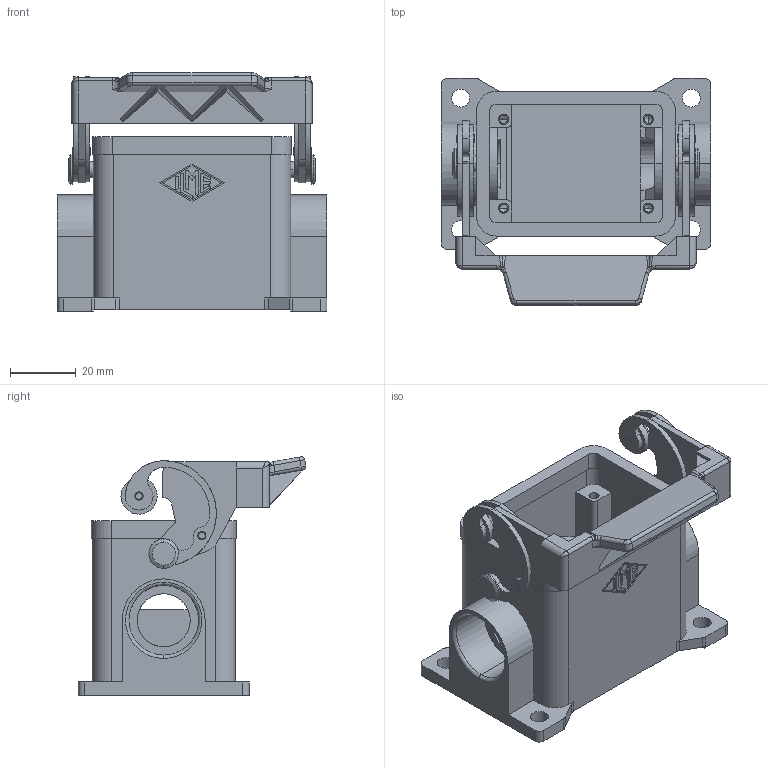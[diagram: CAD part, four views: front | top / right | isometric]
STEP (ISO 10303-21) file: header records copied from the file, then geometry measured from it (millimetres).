
FILE_DESCRIPTION (( 'STEP AP203' ), '1' );
FILE_NAME ('KEK6.STEP', '2013-05-08T11:25:18', ( '' ), ( '' ), 'SwSTEP 2.0', 'SolidWorks 2010', '' );
FILE_SCHEMA (( 'CONFIG_CONTROL_DESIGN' ));
Length unit declared in the file: millimetre
Products named in the file (1): KEK6
Bounding box: 82 x 69.2 x 72.42 mm (x, y, z)
Volume: 73792.5 mm3; surface area: 39695.1 mm2
Topology: 1 solids, 3 shells, 475 faces, 1310 edges, 866 vertices
Faces by surface type: plane 232, cylinder 189, bspline 32, cone 14, torus 8
Entity records: 17938 total; most frequent: CARTESIAN_POINT 5843, ORIENTED_EDGE 2604, DIRECTION 2410, EDGE_CURVE 1302, VERTEX_POINT 866, AXIS2_PLACEMENT_3D 858, VECTOR 694, LINE 694
